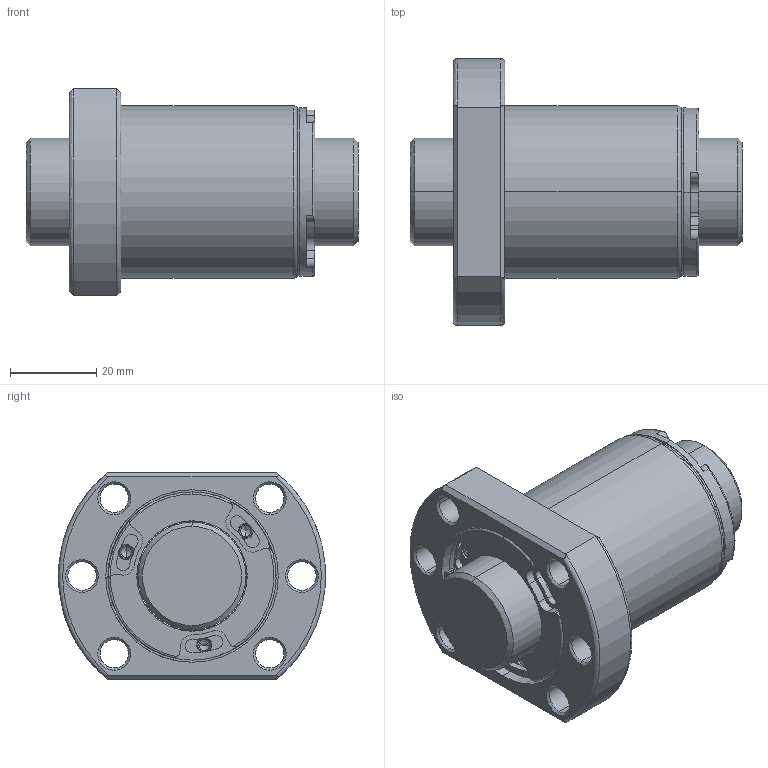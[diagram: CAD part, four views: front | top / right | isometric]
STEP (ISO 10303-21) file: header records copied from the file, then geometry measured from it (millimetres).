
FILE_DESCRIPTION (( 'STEP AP203' ), '1' );
FILE_NAME ('SFSR02510C1D-C.STEP', '2020-06-17T01:02:46', ( '' ), ( '' ), 'SwSTEP 2.0', 'SolidWorks 2013', '' );
FILE_SCHEMA (( 'CONFIG_CONTROL_DESIGN' ));
Length unit declared in the file: millimetre
Products named in the file (1): SFSR02510C1D-C
Bounding box: 77 x 61.8 x 48 mm (x, y, z)
Volume: 89624.5 mm3; surface area: 26660.3 mm2
Topology: 2 solids, 2 shells, 267 faces, 672 edges, 416 vertices
Faces by surface type: cylinder 132, plane 69, cone 52, bspline 14
Entity records: 8919 total; most frequent: CARTESIAN_POINT 2276, DIRECTION 1508, ORIENTED_EDGE 1320, EDGE_CURVE 660, AXIS2_PLACEMENT_3D 634, VERTEX_POINT 416, CIRCLE 380, EDGE_LOOP 304
